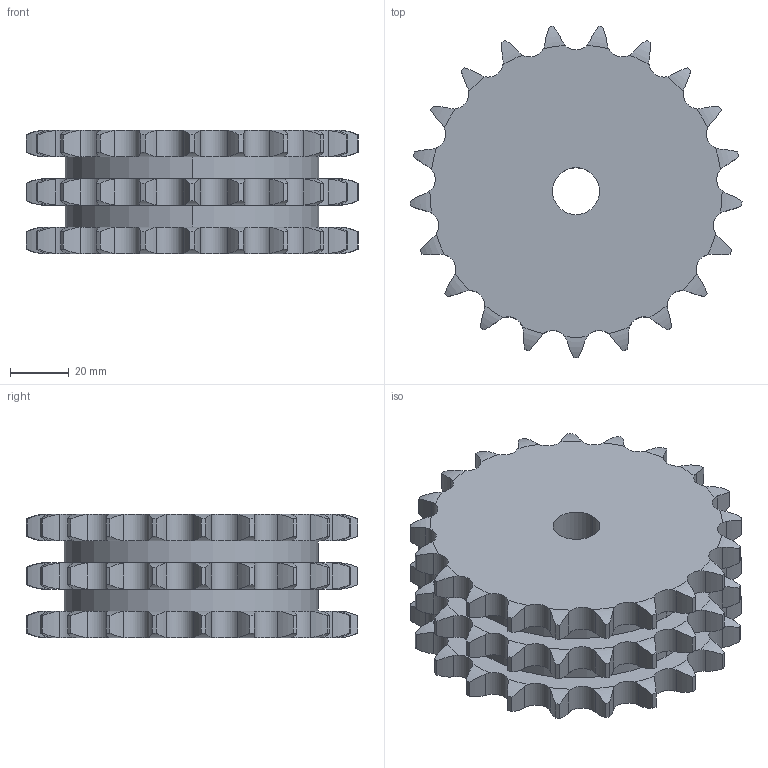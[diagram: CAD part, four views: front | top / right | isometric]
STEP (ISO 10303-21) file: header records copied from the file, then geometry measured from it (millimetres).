
FILE_DESCRIPTION((''),'2;1');
FILE_NAME('500-303-0021_PRT','2021-02-12T',('Brieden'),('Brieden'),'PRO/ENGINEER BY PARAMETRIC TECHNOLOGY CORPORATION, 2010160','PRO/ENGINEER BY PARAMETRIC TECHNOLOGY CORPORATION, 2010160','');
FILE_SCHEMA(('AUTOMOTIVE_DESIGN { 1 0 10303 214 1 1 1 1 }'));
Length unit declared in the file: millimetre
Products named in the file (1): 500-303-0021_PRT
Bounding box: 113.18 x 112.87 x 42.1 mm (x, y, z)
Volume: 303078.4 mm3; surface area: 45024.7 mm2
Topology: 1 solids, 1 shells, 390 faces, 1152 edges, 768 vertices
Faces by surface type: cylinder 258, torus 126, plane 6
Entity records: 18598 total; most frequent: CARTESIAN_POINT 5263, ORIENTED_EDGE 2304, DIRECTION 1818, PRESENTATION_STYLE_ASSIGNMENT 1153, STYLED_ITEM 1153, CURVE_STYLE 1152, EDGE_CURVE 1152, AXIS2_PLACEMENT_3D 780
